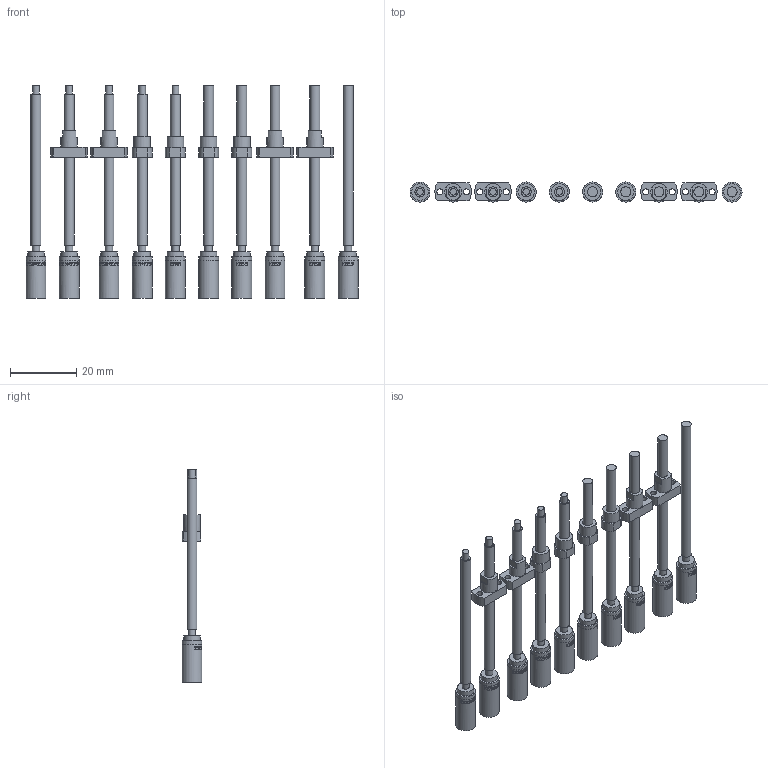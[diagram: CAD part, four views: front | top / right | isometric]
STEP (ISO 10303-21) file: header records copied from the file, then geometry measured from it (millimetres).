
FILE_DESCRIPTION(/* description */ (''),/* implementation_level */ '2;1');
FILE_NAME(/* name */ '06L-2stage_SL_standard_KWNx_KWS1_.stp',/* time_stamp */ '2023-05-12T06:32:24+02:00',/* author */ ('DR. FRITZ FAULHABER GmbH & Co. KG'),/* organization */ ('DR. FRITZ FAULHABER GmbH & Co. KG'),/* preprocessor_version */ 'ST-DEVELOPER v16.7',/* originating_system */ 'SIEMENS PLM Software NX 1919',/* authorisation */ '');
FILE_SCHEMA (('AUTOMOTIVE_DESIGN { 1 0 10303 214 3 1 1 1 }'));
Length unit declared in the file: millimetre
Products named in the file (1): H99999996-C-Linear Actuato
Bounding box: 100 x 6 x 64 mm (x, y, z)
Volume: 7922.8 mm3; surface area: 9607.1 mm2
Topology: 10 solids, 10 shells, 970 faces, 2327 edges, 1552 vertices
Faces by surface type: plane 494, bspline 245, cylinder 211, cone 20
Full cylindrical faces by diameter (mm): 1.8 x8, 1.95 x10, 2 x5, 2.2 x10, 2.35 x10, 2.8 x10, 3 x18, 3.959 x10, 5 x28, 5.8 x10, 6 x20
Entity records: 41273 total; most frequent: CARTESIAN_POINT 17638, ORIENTED_EDGE 4244, DIRECTION 2899, EDGE_CURVE 2122, VERTEX_POINT 1508, EDGE_LOOP 1322, AXIS2_PLACEMENT_3D 1249, B_SPLINE_CURVE_WITH_KNOTS 1198
